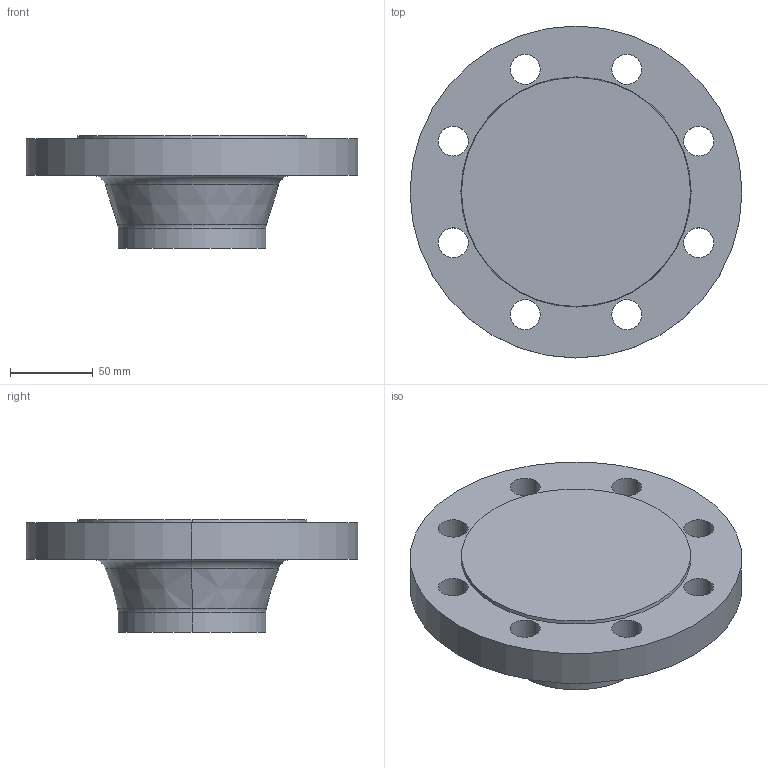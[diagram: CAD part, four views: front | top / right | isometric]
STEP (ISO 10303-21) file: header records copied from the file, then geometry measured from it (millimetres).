
FILE_DESCRIPTION (( 'STEP AP214' ), '1' );
FILE_NAME ('PN40 DN80 Type 21(ii) - Type B Face.STEP', '2019-01-01T19:30:55', ( '' ), ( '' ), 'SwSTEP 2.0', 'SolidWorks 2019', '' );
FILE_SCHEMA (( 'AUTOMOTIVE_DESIGN' ));
Length unit declared in the file: millimetre
Products named in the file (1): PN40 DN80 Type 21(ii) - Type B Face
Bounding box: 200 x 200 x 68 mm (x, y, z)
Volume: 996411.5 mm3; surface area: 93415.6 mm2
Topology: 1 solids, 1 shells, 32 faces, 78 edges, 50 vertices
Faces by surface type: cylinder 20, torus 4, cone 4, plane 4
Entity records: 1034 total; most frequent: DIRECTION 198, CARTESIAN_POINT 161, ORIENTED_EDGE 156, AXIS2_PLACEMENT_3D 87, EDGE_CURVE 78, CIRCLE 54, EDGE_LOOP 50, VERTEX_POINT 50
